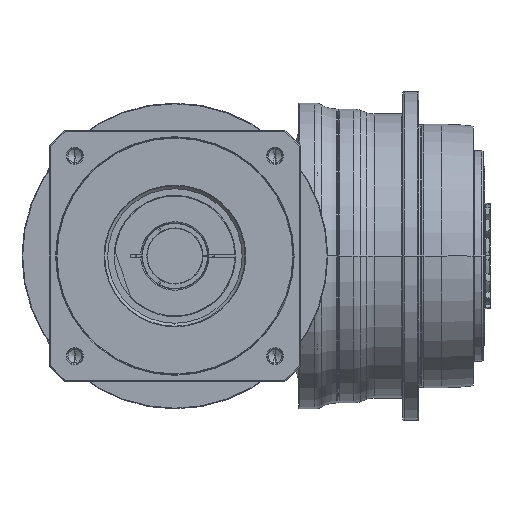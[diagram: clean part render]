
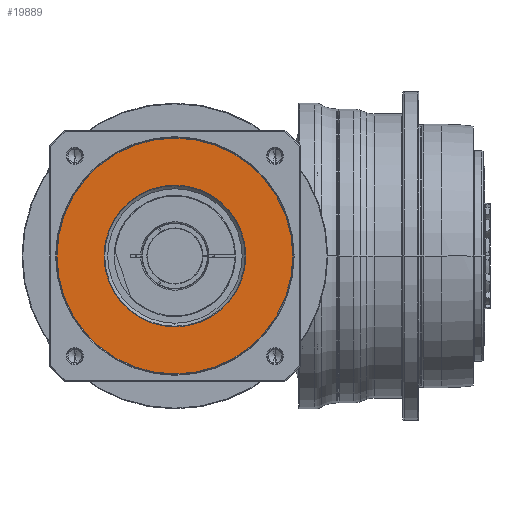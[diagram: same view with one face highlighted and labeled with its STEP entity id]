
A CAD part, front view. The second image highlights one B-rep face of the part: STEP entity #19889.
In plain terms, the highlighted planar face has unit normal (0, -1, 0) as drawn and (0, 0, 1) by its records, which use the part's own axes.
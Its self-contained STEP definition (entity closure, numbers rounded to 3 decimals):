
#18574=CARTESIAN_POINT('',(0.,0.,36.));
#18575=DIRECTION('',(0.,0.,-1.));
#18576=DIRECTION('',(0.,-1.,0.));
#18577=AXIS2_PLACEMENT_3D('',#18574,#18575,#18576);
#18579=CARTESIAN_POINT('',(0.,0.,36.));
#18580=DIRECTION('',(0.,0.,-1.));
#18581=DIRECTION('',(0.,1.,0.));
#18582=AXIS2_PLACEMENT_3D('',#18579,#18580,#18581);
#18584=CARTESIAN_POINT('',(0.,0.,
36.));
#18585=DIRECTION('',(0.,0.,-1.));
#18586=DIRECTION('',(1.,0.,0.));
#18587=AXIS2_PLACEMENT_3D('',#18584,#18585,#18586);
#18589=CARTESIAN_POINT('',(0.,0.,36.));
#18590=DIRECTION('',(0.,0.,-1.));
#18591=DIRECTION('',(-1.,0.,0.));
#18592=AXIS2_PLACEMENT_3D('',#18589,#18590,#18591);
#19173=CARTESIAN_POINT('',(0.,-89.5,36.));
#19174=CARTESIAN_POINT('',(0.,89.5,36.));
#19175=VERTEX_POINT('',#19173);
#19176=VERTEX_POINT('',#19174);
#19209=CARTESIAN_POINT('',(53.75,0.,36.));
#19210=CARTESIAN_POINT('',(-53.75,0.,
36.));
#19211=VERTEX_POINT('',#19209);
#19212=VERTEX_POINT('',#19210);
#19873=CARTESIAN_POINT('',(0.,0.,36.));
#19874=DIRECTION('',(0.,0.,-1.));
#19875=DIRECTION('',(0.,-1.,0.));
#19876=AXIS2_PLACEMENT_3D('',#19873,#19874,#19875);
#19877=PLANE('',#19876);
#19879=ORIENTED_EDGE('',*,*,#19878,.T.);
#19880=ORIENTED_EDGE('',*,*,#19863,.T.);
#19881=EDGE_LOOP('',(#19879,#19880));
#19882=FACE_OUTER_BOUND('',#19881,.F.);
#19884=ORIENTED_EDGE('',*,*,#19883,.F.);
#19886=ORIENTED_EDGE('',*,*,#19885,.F.);
#19887=EDGE_LOOP('',(#19884,#19886));
#19888=FACE_BOUND('',#19887,.F.);
#19889=ADVANCED_FACE('',(#19882,#19888),#19877,.F.);
#18578=CIRCLE('',#18577,89.5);
#18583=CIRCLE('',#18582,89.5);
#18588=CIRCLE('',#18587,53.75);
#18593=CIRCLE('',#18592,53.75);
#19863=EDGE_CURVE('',#19176,#19175,#18583,.T.);
#19878=EDGE_CURVE('',#19175,#19176,#18578,.T.);
#19883=EDGE_CURVE('',#19211,#19212,#18588,.T.);
#19885=EDGE_CURVE('',#19212,#19211,#18593,.T.);
